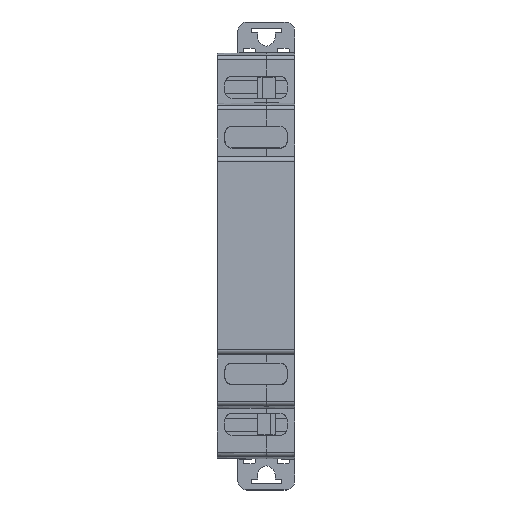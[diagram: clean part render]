
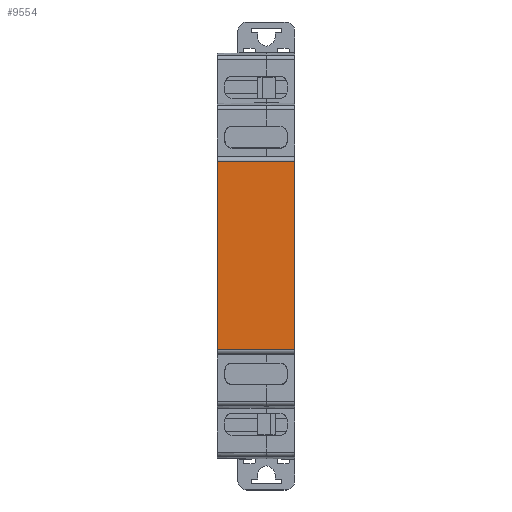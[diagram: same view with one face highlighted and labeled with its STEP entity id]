
A CAD part, top view. The second image highlights one B-rep face of the part: STEP entity #9554.
In plain terms, the highlighted planar face has unit normal (0, 0, 1) as drawn and (0, 0, -1) by its records, which use the part's own axes.
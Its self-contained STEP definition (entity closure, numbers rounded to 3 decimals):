
#9554=ADVANCED_FACE('',(#17305),#17307,.F.);
#17305=FACE_BOUND('',#17306,.T.);
#17306=EDGE_LOOP('',(#23765,#23766,#23767,#23768));
#17307=PLANE('',#17308);
#17308=AXIS2_PLACEMENT_3D('',#17309,#17310,#17311);
#17309=CARTESIAN_POINT('',(8.875,-22.6,0.));
#17310=DIRECTION('',(0.,0.,1.));
#17311=DIRECTION('',(1.,0.,-0.));
#23765=ORIENTED_EDGE('',*,*,#27105,.T.);
#23766=ORIENTED_EDGE('',*,*,#27107,.T.);
#23767=ORIENTED_EDGE('',*,*,#27095,.F.);
#23768=ORIENTED_EDGE('',*,*,#27108,.T.);
#27095=EDGE_CURVE('',#32253,#32254,#32255,.T.);
#27105=EDGE_CURVE('',#32270,#32268,#32271,.T.);
#27107=EDGE_CURVE('',#32268,#32254,#32273,.T.);
#27108=EDGE_CURVE('',#32253,#32270,#32274,.T.);
#32253=VERTEX_POINT('',#43989);
#32254=VERTEX_POINT('',#43990);
#32255=LINE('',#43991,#43992);
#32268=VERTEX_POINT('',#44024);
#32270=VERTEX_POINT('',#44029);
#32271=LINE('',#44030,#44031);
#32273=LINE('',#44037,#44038);
#32274=LINE('',#44040,#44041);
#43989=CARTESIAN_POINT('',(8.875,-21.6,0.));
#43990=CARTESIAN_POINT('',(8.875,21.6,0.));
#43991=CARTESIAN_POINT('',(8.875,-21.6,0.));
#43992=VECTOR('',#43993,1.);
#43993=DIRECTION('',(0.,1.,0.));
#44024=CARTESIAN_POINT('',(-8.875,21.6,0.));
#44029=CARTESIAN_POINT('',(-8.875,-21.6,0.));
#44030=CARTESIAN_POINT('',(-8.875,-21.6,0.));
#44031=VECTOR('',#44032,1.);
#44032=DIRECTION('',(0.,1.,0.));
#44037=CARTESIAN_POINT('',(-8.875,21.6,0.));
#44038=VECTOR('',#44039,1.);
#44039=DIRECTION('',(1.,0.,0.));
#44040=CARTESIAN_POINT('',(8.875,-21.6,0.));
#44041=VECTOR('',#44042,1.);
#44042=DIRECTION('',(-1.,0.,0.));
